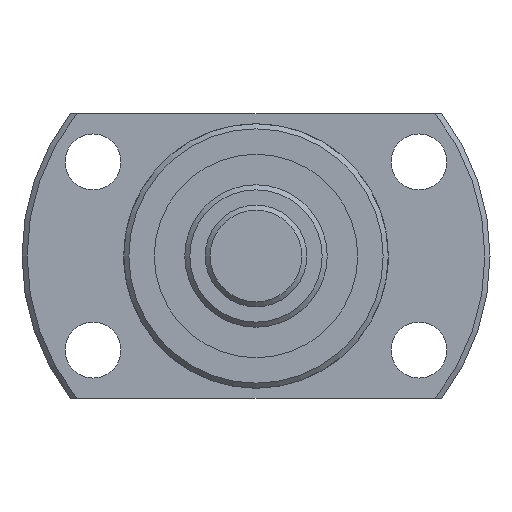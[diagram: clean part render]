
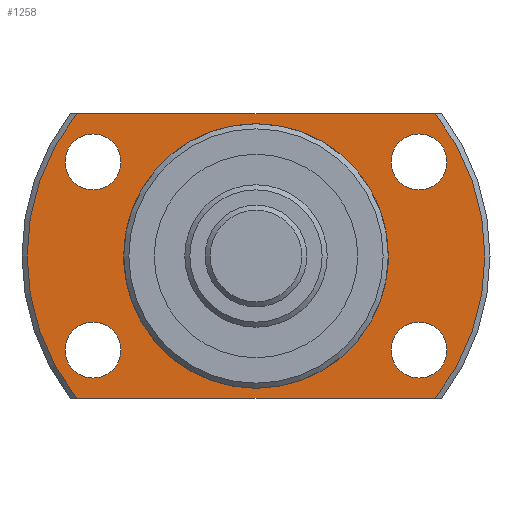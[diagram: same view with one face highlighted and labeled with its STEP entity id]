
A CAD part, left-side view. The second image highlights one B-rep face of the part: STEP entity #1258.
In plain terms, the highlighted planar face has unit normal (-1, 0, 0).
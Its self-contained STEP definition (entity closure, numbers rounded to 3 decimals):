
#128=CIRCLE('',#1401,12.8);
#131=CIRCLE('',#1405,22.5);
#137=CIRCLE('',#1416,2.75);
#138=CIRCLE('',#1417,2.75);
#139=CIRCLE('',#1418,2.75);
#140=CIRCLE('',#1419,2.75);
#141=CIRCLE('',#1420,22.5);
#297=ORIENTED_EDGE('',*,*,#578,.T.);
#298=ORIENTED_EDGE('',*,*,#579,.T.);
#299=ORIENTED_EDGE('',*,*,#580,.T.);
#300=ORIENTED_EDGE('',*,*,#581,.T.);
#301=ORIENTED_EDGE('',*,*,#567,.F.);
#302=ORIENTED_EDGE('',*,*,#582,.T.);
#303=ORIENTED_EDGE('',*,*,#583,.F.);
#304=ORIENTED_EDGE('',*,*,#584,.T.);
#305=ORIENTED_EDGE('',*,*,#561,.T.);
#561=EDGE_CURVE('',#715,#715,#128,.T.);
#567=EDGE_CURVE('',#720,#721,#131,.T.);
#578=EDGE_CURVE('',#730,#730,#137,.T.);
#579=EDGE_CURVE('',#731,#731,#138,.T.);
#580=EDGE_CURVE('',#732,#732,#139,.T.);
#581=EDGE_CURVE('',#733,#733,#140,.T.);
#582=EDGE_CURVE('',#720,#734,#811,.T.);
#583=EDGE_CURVE('',#735,#734,#141,.T.);
#584=EDGE_CURVE('',#735,#721,#812,.T.);
#715=VERTEX_POINT('',#2064);
#720=VERTEX_POINT('',#2078);
#721=VERTEX_POINT('',#2080);
#730=VERTEX_POINT('',#2114);
#731=VERTEX_POINT('',#2116);
#732=VERTEX_POINT('',#2118);
#733=VERTEX_POINT('',#2120);
#734=VERTEX_POINT('',#2122);
#735=VERTEX_POINT('',#2124);
#811=LINE('',#2121,#873);
#812=LINE('',#2125,#874);
#873=VECTOR('',#1709,1000.);
#874=VECTOR('',#1712,1000.);
#973=EDGE_LOOP('',(#297));
#974=EDGE_LOOP('',(#298));
#975=EDGE_LOOP('',(#299));
#976=EDGE_LOOP('',(#300));
#977=EDGE_LOOP('',(#301,#302,#303,#304));
#978=EDGE_LOOP('',(#305));
#1107=FACE_BOUND('',#973,.T.);
#1108=FACE_BOUND('',#974,.T.);
#1109=FACE_BOUND('',#975,.T.);
#1110=FACE_BOUND('',#976,.T.);
#1111=FACE_BOUND('',#977,.T.);
#1112=FACE_BOUND('',#978,.T.);
#1195=PLANE('',#1415);
#1258=ADVANCED_FACE('',(#1107,#1108,#1109,#1110,#1111,#1112),#1195,.F.);
#1401=AXIS2_PLACEMENT_3D('',#2063,#1667,#1668);
#1405=AXIS2_PLACEMENT_3D('',#2079,#1677,#1678);
#1415=AXIS2_PLACEMENT_3D('',#2112,#1699,#1700);
#1416=AXIS2_PLACEMENT_3D('',#2113,#1701,#1702);
#1417=AXIS2_PLACEMENT_3D('',#2115,#1703,#1704);
#1418=AXIS2_PLACEMENT_3D('',#2117,#1705,#1706);
#1419=AXIS2_PLACEMENT_3D('',#2119,#1707,#1708);
#1420=AXIS2_PLACEMENT_3D('',#2123,#1710,#1711);
#1667=DIRECTION('',(1.,0.,0.));
#1668=DIRECTION('',(0.,0.,-1.));
#1677=DIRECTION('',(1.,0.,0.));
#1678=DIRECTION('',(0.,0.,-1.));
#1699=DIRECTION('',(1.,0.,0.));
#1700=DIRECTION('',(0.,0.,-1.));
#1701=DIRECTION('',(1.,0.,0.));
#1702=DIRECTION('',(0.,0.,-1.));
#1703=DIRECTION('',(1.,0.,0.));
#1704=DIRECTION('',(0.,0.,-1.));
#1705=DIRECTION('',(1.,0.,0.));
#1706=DIRECTION('',(0.,0.,-1.));
#1707=DIRECTION('',(1.,0.,0.));
#1708=DIRECTION('',(0.,0.,-1.));
#1709=DIRECTION('',(0.,-1.,0.));
#1710=DIRECTION('',(1.,0.,0.));
#1711=DIRECTION('',(0.,0.,-1.));
#1712=DIRECTION('',(0.,1.,0.));
#2063=CARTESIAN_POINT('',(19.,0.,0.));
#2064=CARTESIAN_POINT('',(19.,0.,-12.8));
#2078=CARTESIAN_POINT('',(19.,17.614,-14.));
#2079=CARTESIAN_POINT('',(19.,0.,0.));
#2080=CARTESIAN_POINT('',(19.,17.614,14.));
#2112=CARTESIAN_POINT('',(19.,12.8,0.));
#2113=CARTESIAN_POINT('',(19.,-16.021,-9.25));
#2114=CARTESIAN_POINT('',(19.,-16.021,-12.));
#2115=CARTESIAN_POINT('',(19.,-16.021,9.25));
#2116=CARTESIAN_POINT('',(19.,-16.021,6.5));
#2117=CARTESIAN_POINT('',(19.,16.021,-9.25));
#2118=CARTESIAN_POINT('',(19.,16.021,-12.));
#2119=CARTESIAN_POINT('',(19.,16.021,9.25));
#2120=CARTESIAN_POINT('',(19.,16.021,6.5));
#2121=CARTESIAN_POINT('',(19.,12.8,-14.));
#2122=CARTESIAN_POINT('',(19.,-17.614,-14.));
#2123=CARTESIAN_POINT('',(19.,0.,0.));
#2124=CARTESIAN_POINT('',(19.,-17.614,14.));
#2125=CARTESIAN_POINT('',(19.,12.8,14.));
